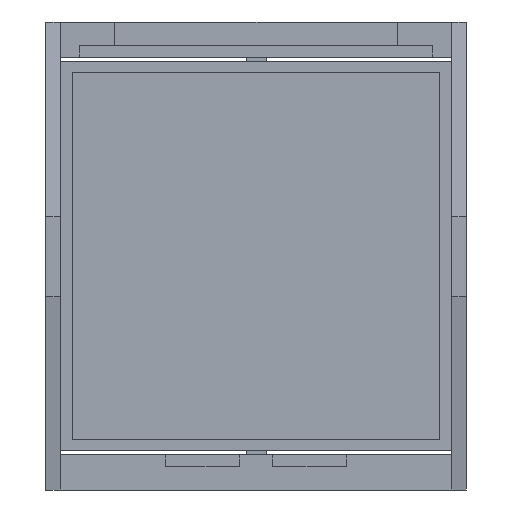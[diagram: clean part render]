
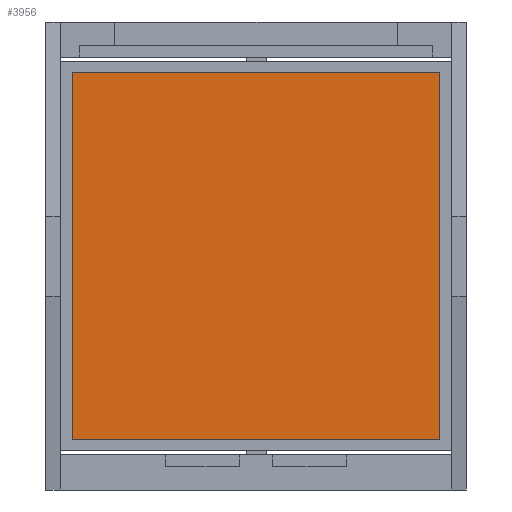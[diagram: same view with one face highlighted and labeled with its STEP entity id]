
A CAD part, front view. The second image highlights one B-rep face of the part: STEP entity #3956.
In plain terms, the highlighted planar face has unit normal (0, -1, 0).
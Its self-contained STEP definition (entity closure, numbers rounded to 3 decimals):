
#62 = CARTESIAN_POINT ( 'NONE',  ( -31.099, -0.416, 8.342 ) ) ;
#268 = EDGE_CURVE ( 'NONE', #7679, #722, #5498, .T. ) ;
#365 = PLANE ( 'NONE',  #7820 ) ;
#563 = LINE ( 'NONE', #62, #2946 ) ;
#700 = ORIENTED_EDGE ( 'NONE', *, *, #5521, .F. ) ;
#722 = VERTEX_POINT ( 'NONE', #782 ) ;
#782 = CARTESIAN_POINT ( 'NONE',  ( -66.099, -0.416, 43.342 ) ) ;
#1107 = FACE_OUTER_BOUND ( 'NONE', #9165, .T. ) ;
#1254 = DIRECTION ( 'NONE',  ( 1., 0., 0. ) ) ;
#1301 = LINE ( 'NONE', #9160, #7040 ) ;
#1970 = VECTOR ( 'NONE', #1254, 1000. ) ;
#1985 = DIRECTION ( 'NONE',  ( -1., 0., 0. ) ) ;
#2946 = VECTOR ( 'NONE', #5259, 1000. ) ;
#3252 = DIRECTION ( 'NONE',  ( 0., 0., 1. ) ) ;
#3906 = CARTESIAN_POINT ( 'NONE',  ( -31.099, -0.416, 43.342 ) ) ;
#3956 = ADVANCED_FACE ( 'NONE', ( #1107 ), #365, .F. ) ;
#3960 = CARTESIAN_POINT ( 'NONE',  ( -66.099, -0.416, 43.342 ) ) ;
#4088 = DIRECTION ( 'NONE',  ( 0., 0., 1. ) ) ;
#5259 = DIRECTION ( 'NONE',  ( 0., 0., -1. ) ) ;
#5485 = DIRECTION ( 'NONE',  ( 0., 1., 0. ) ) ;
#5498 = LINE ( 'NONE', #8345, #7507 ) ;
#5521 = EDGE_CURVE ( 'NONE', #8127, #7679, #1301, .T. ) ;
#5875 = ORIENTED_EDGE ( 'NONE', *, *, #8229, .F. ) ;
#6405 = VERTEX_POINT ( 'NONE', #3906 ) ;
#6861 = ORIENTED_EDGE ( 'NONE', *, *, #9242, .F. ) ;
#7040 = VECTOR ( 'NONE', #1985, 1000. ) ;
#7507 = VECTOR ( 'NONE', #3252, 1000. ) ;
#7679 = VERTEX_POINT ( 'NONE', #7823 ) ;
#7820 = AXIS2_PLACEMENT_3D ( 'NONE', #3960, #5485, #4088 ) ;
#7823 = CARTESIAN_POINT ( 'NONE',  ( -66.099, -0.416, 8.342 ) ) ;
#8127 = VERTEX_POINT ( 'NONE', #8389 ) ;
#8229 = EDGE_CURVE ( 'NONE', #722, #6405, #9344, .T. ) ;
#8336 = ORIENTED_EDGE ( 'NONE', *, *, #268, .F. ) ;
#8345 = CARTESIAN_POINT ( 'NONE',  ( -66.099, -0.416, 8.342 ) ) ;
#8389 = CARTESIAN_POINT ( 'NONE',  ( -31.099, -0.416, 8.342 ) ) ;
#9160 = CARTESIAN_POINT ( 'NONE',  ( -66.099, -0.416, 8.342 ) ) ;
#9165 = EDGE_LOOP ( 'NONE', ( #8336, #700, #6861, #5875 ) ) ;
#9242 = EDGE_CURVE ( 'NONE', #6405, #8127, #563, .T. ) ;
#9292 = CARTESIAN_POINT ( 'NONE',  ( -66.099, -0.416, 43.342 ) ) ;
#9344 = LINE ( 'NONE', #9292, #1970 ) ;
